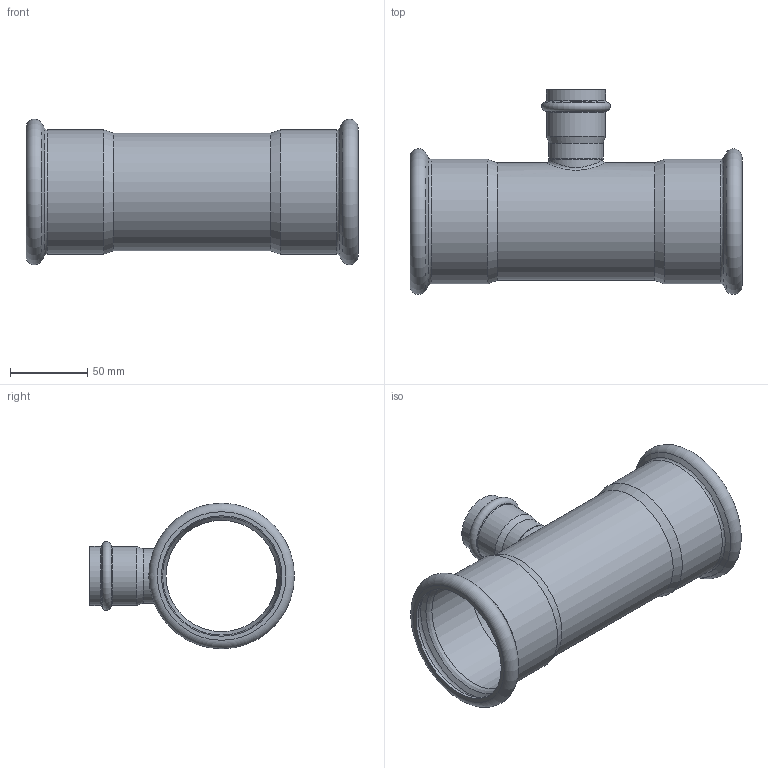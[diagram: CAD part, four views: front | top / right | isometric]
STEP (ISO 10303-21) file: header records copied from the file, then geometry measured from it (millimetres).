
FILE_DESCRIPTION((''),'2;1');
FILE_NAME('G:\Nirosan-Schmiedefeld\Technics\CAD\Bauteile VA\076\69130763576(2).stp','2010-03-09T14:13:38',('herberg'),(''),'Autodesk Inventor 2009','Autodesk Inventor 2009','');
FILE_SCHEMA(('AUTOMOTIVE_DESIGN { 1 0 10303 214 1 1 1 1 }'));
Length unit declared in the file: millimetre
Products named in the file (3): 69130763576(2); LM_69130763576(1); HM_6924335(1)
Assembly tree (2 placements, depth 2):
  69130763576(2)
    LM_69130763576(1)
    HM_6924335(1)
Bounding box: 215 x 132.65 x 94.3 mm (x, y, z)
Volume: 120468.1 mm3; surface area: 124762.6 mm2
Topology: 2 solids, 2 shells, 51 faces, 103 edges, 58 vertices
Faces by surface type: cylinder 16, cone 12, bspline 9, plane 7, torus 7
Full cylindrical faces by diameter (mm): 31 x1, 32 x1, 35 x2, 35.25 x2, 38.25 x2, 72.1 x1, 76.1 x1, 76.6 x2, 78 x2, 80.6 x2
Entity records: 2974 total; most frequent: CARTESIAN_POINT 2045, DIRECTION 192, ORIENTED_EDGE 108, EDGE_LOOP 102, AXIS2_PLACEMENT_3D 96, EDGE_CURVE 54, VERTEX_POINT 52, FACE_OUTER_BOUND 51
